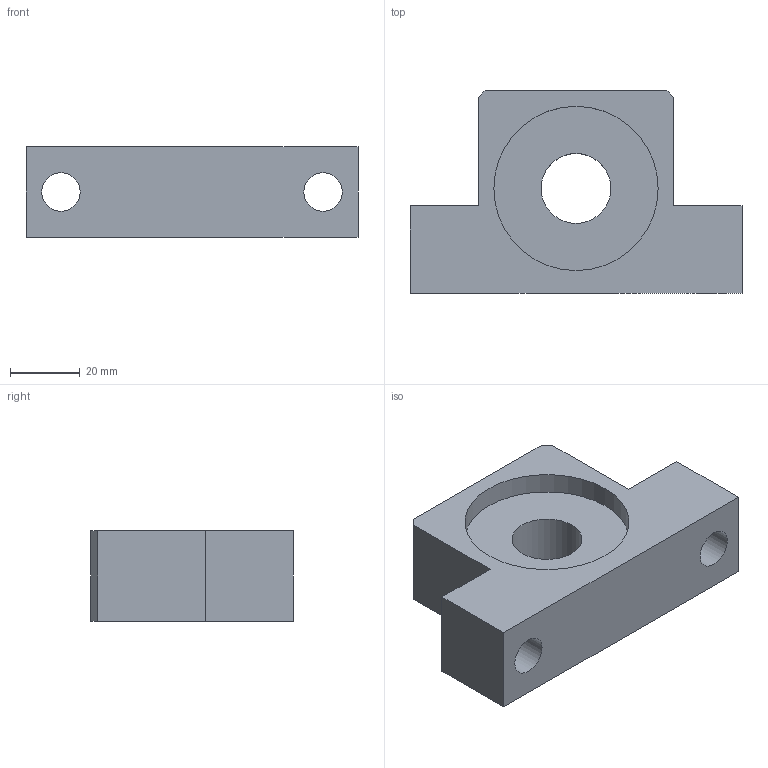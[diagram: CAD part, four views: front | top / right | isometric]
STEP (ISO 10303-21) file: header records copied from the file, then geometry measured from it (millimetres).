
FILE_DESCRIPTION(/* description */ (''),/* implementation_level */ '2;1');
FILE_NAME(/* name */ 'C:\Users\tenki620635\Desktop\官網\圖面\軸承座\3D\setp檔\EF20.stp',/* time_stamp */ '2020-11-20T18:10:03+08:00',/* author */ ('tenki620635'),/* organization */ (''),/* preprocessor_version */ 'ST-DEVELOPER v15.2',/* originating_system */ 'Autodesk Inventor 2014',/* authorisation */ '');
FILE_SCHEMA (('AUTOMOTIVE_DESIGN { 1 0 10303 214 3 1 1 }'));
Length unit declared in the file: millimetre
Products named in the file (1): EF20
Bounding box: 95 x 58 x 26 mm (x, y, z)
Volume: 79724.8 mm3; surface area: 19704 mm2
Topology: 1 solids, 1 shells, 19 faces, 47 edges, 32 vertices
Faces by surface type: plane 14, cylinder 5
Full cylindrical faces by diameter (mm): 11 x2, 20 x1, 47 x2
Entity records: 557 total; most frequent: DIRECTION 90, CARTESIAN_POINT 90, ORIENTED_EDGE 80, EDGE_CURVE 40, EDGE_LOOP 32, LINE 30, VECTOR 30, VERTEX_POINT 30
